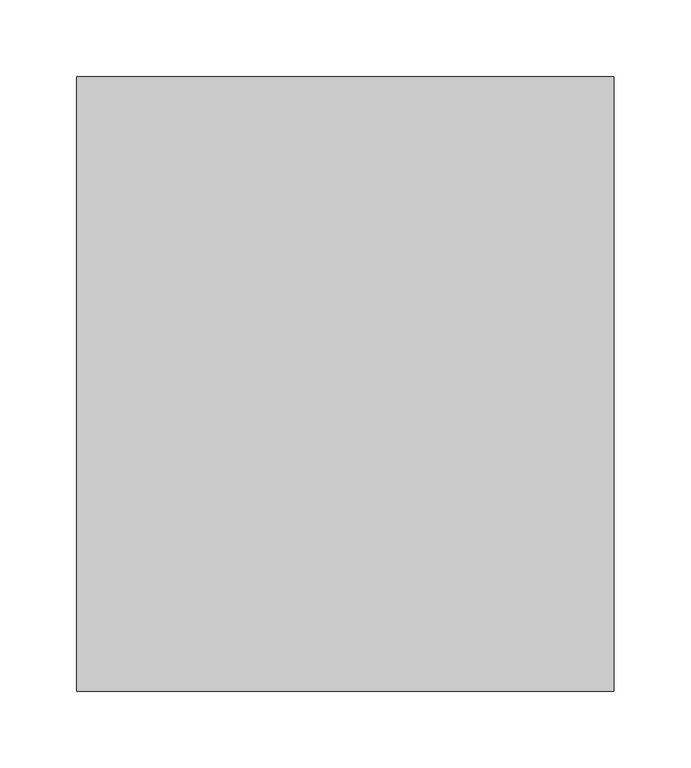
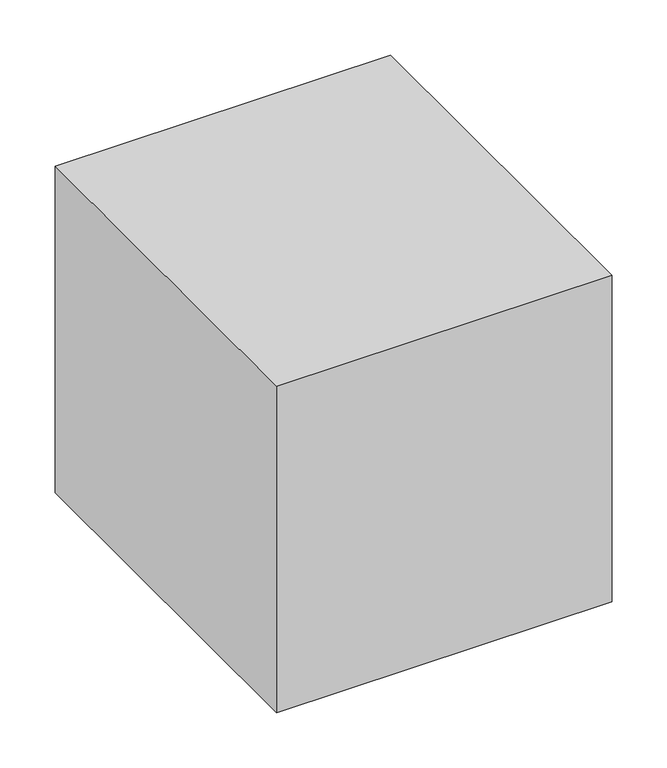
"""IFC4 building model written with IfcOpenShell, lengths in millimetres: furniture geometry, Kubus box : Kubus box 3."""

from ifc_helpers import new_model, si_unit, origin, origin_with_axes, place, context, project, spatial, polyline, outline, extrude, source, transform, mapped, element, save


def furniture_7139cbfb(model_context):
    return source(origin(), model_context, "Body", "SweptSolid", [
        extrude(outline(polyline([(360.0, 0.0), (10.0, 0.0), (10.0, 400.0), (360.0, 400.0), (360.0, 0.0)])), origin_with_axes(), (0.0, 0.0, 1.0), 360.0),
    ])


if __name__ == "__main__":
    model = new_model("IFC4")
    model_context = context("Model", 3, world=origin())
    ifc_project = project(units=[si_unit("LENGTHUNIT", "METRE", prefix="MILLI")], contexts=[model_context])
    site = spatial("IfcSite", under=ifc_project)
    building = spatial("IfcBuilding", under=site)
    placement = place(None, origin())
    furniture_shape = furniture_7139cbfb(model_context)
    element("IfcFurniture", 1, ObjectType="Kubus box : Kubus box 3", at=placement, inside=building, context=model_context, shape_type="MappedRepresentation", body=[
        mapped(furniture_shape, transform((0.0, 0.0, 0.0), x_axis=(1.0, 0.0, 0.0), y_axis=(0.0, 1.0, 0.0), z_axis=(0.0, 0.0, 1.0))),
    ])
    save(model, "model.ifc")
